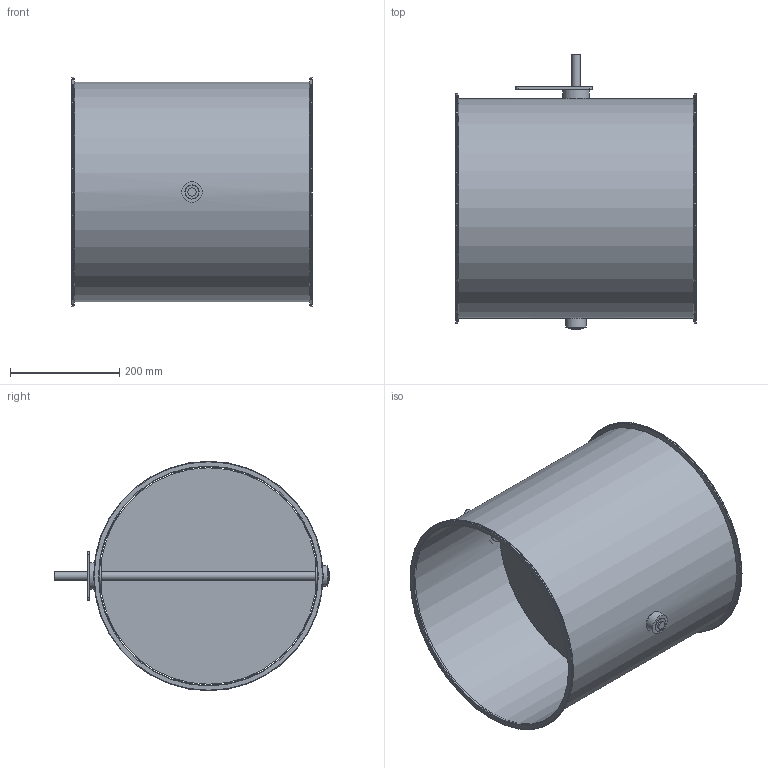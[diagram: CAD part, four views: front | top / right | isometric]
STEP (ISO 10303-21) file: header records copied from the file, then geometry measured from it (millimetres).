
FILE_DESCRIPTION(/* description */ (''),/* implementation_level */ '2;1');
FILE_NAME(/* name */ 'EA108-80B__400_L440_Belimo_Typ_NM.stp',/* time_stamp */ '2017-12-06T15:29:20+01:00',/* author */ (''),/* organization */ (''),/* preprocessor_version */ 'ST-DEVELOPER v11',/* originating_system */ 'SIEMENS UGS NX 6.0',/* authorisation */ '');
FILE_SCHEMA (('CONFIG_CONTROL_DESIGN'));
Length unit declared in the file: millimetre
Products named in the file (1): gars18E2j2g0
Bounding box: 440 x 504 x 420 mm (x, y, z)
Volume: 984764.7 mm3; surface area: 1469331.8 mm2
Topology: 8 solids, 8 shells, 62 faces, 132 edges, 88 vertices
Faces by surface type: cylinder 30, plane 24, torus 6, cone 2
Full cylindrical faces by diameter (mm): 6.1 x6, 15 x3, 25 x3, 25.85 x2, 26 x2, 38 x3, 49 x1, 400 x1, 402 x1, 420 x2
Entity records: 1636 total; most frequent: CARTESIAN_POINT 299, DIRECTION 274, ORIENTED_EDGE 180, AXIS2_PLACEMENT_3D 125, EDGE_LOOP 124, FACE_BOUND 110, EDGE_CURVE 90, VERTEX_POINT 78
